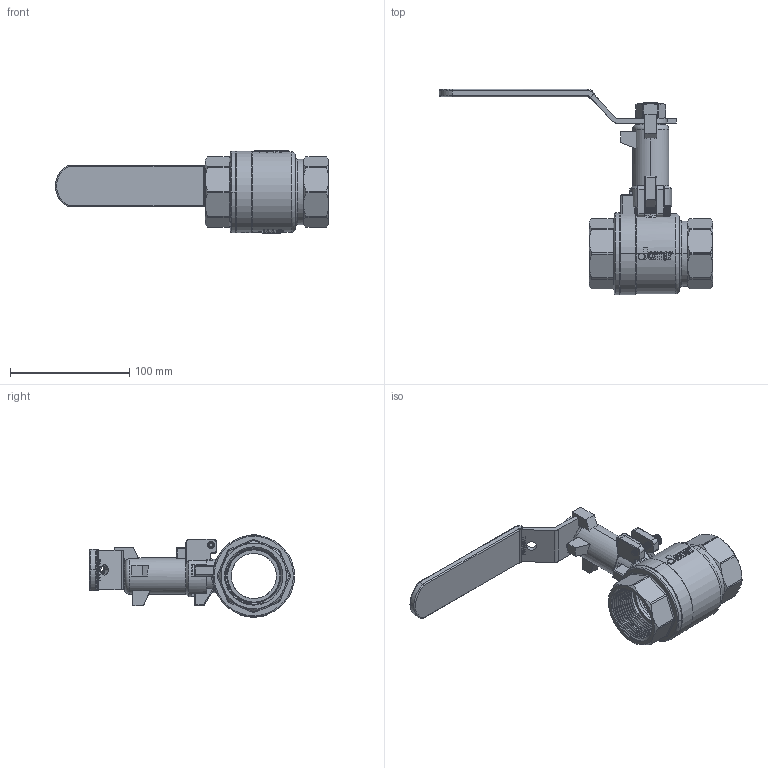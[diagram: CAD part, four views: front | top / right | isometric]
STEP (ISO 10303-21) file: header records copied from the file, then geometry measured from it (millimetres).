
FILE_DESCRIPTION (( 'STEP AP203' ), '1' );
FILE_NAME ('DN40-JOMAR增高套筒估價圖-牙口無掛鎖.STEP', '2024-04-09T07:49:48', ( '' ), ( '' ), 'SwSTEP 2.0', 'SolidWorks 2018', '' );
FILE_SCHEMA (( 'CONFIG_CONTROL_DESIGN' ));
Length unit declared in the file: millimetre
Products named in the file (17): SCREW-M5內六角-25L; BBL707A-1.5''''JOMAR球閥八角頭-無鉛無插溝; DN50-牙套; NBL268; DN40-JOMAR增高套筒估價圖-牙口無掛鎖; EBL307; BBL707-1.5''''JOMAR球閥體-無鉛-表面無插溝; CBL238; RBL267; DN50-CBL238白色膠套-T-200CSSG; EBL208C; DN40-DN50-CBL707-無掛鎖把手組合-白色膠套 T-200CSSG; GBL218; DN50-白鐵中心栓; EBL208B; DN50-PIPE 2; TBL268A
Assembly tree (18 placements, depth 3):
  DN40-JOMAR增高套筒估價圖-牙口無掛鎖
    BBL707-1.5''''JOMAR球閥體-無鉛-表面無插溝
    RBL267
    EBL208C
    GBL218
    EBL208B
    TBL268A
    BBL707A-1.5''''JOMAR球閥八角頭-無鉛無插溝
    NBL268
    EBL307  x2
    DN40-DN50-CBL707-無掛鎖把手組合-白色膠套 T-200CSSG
      CBL238
      DN50-CBL238白色膠套-T-200CSSG
    DN50-CBL238白色膠套-T-200CSSG
    DN50-白鐵中心栓
    DN50-PIPE 2
    SCREW-M5內六角-25L
    DN50-牙套
Bounding box: 229.35 x 172.16 x 69 mm (x, y, z)
Volume: 270073.6 mm3; surface area: 169055.5 mm2
Topology: 17 solids, 17 shells, 4350 faces, 11761 edges, 7761 vertices
Faces by surface type: plane 2250, bspline 1155, cylinder 636, cone 236, torus 59, sphere 14
Entity records: 197286 total; most frequent: CARTESIAN_POINT 128557, ORIENTED_EDGE 15928, DIRECTION 10849, EDGE_CURVE 7964, VERTEX_POINT 5242, VECTOR 4259, LINE 4259, AXIS2_PLACEMENT_3D 3295
